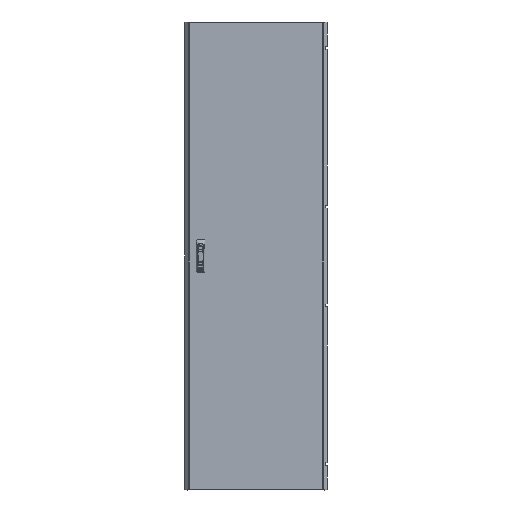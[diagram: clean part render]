
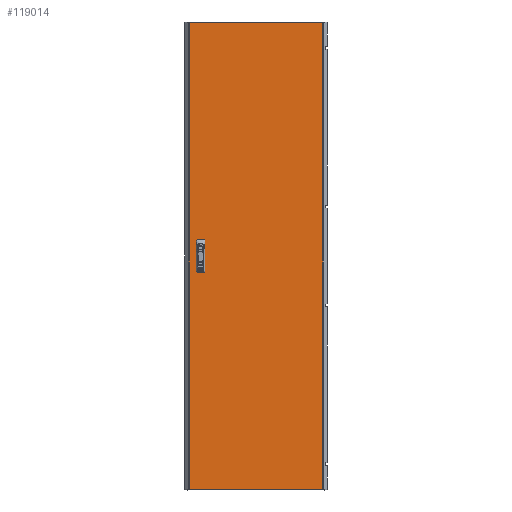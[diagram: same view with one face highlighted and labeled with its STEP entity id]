
A CAD part, top view. The second image highlights one B-rep face of the part: STEP entity #119014.
In plain terms, the highlighted planar face has unit normal (0, 0, 1).
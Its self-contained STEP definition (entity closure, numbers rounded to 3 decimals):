
#3309 = CARTESIAN_POINT ( 'NONE',  ( -217.5, 12.5, 0. ) ) ;
#4900 = DIRECTION ( 'NONE',  ( 0., -1., 0. ) ) ;
#5269 = VECTOR ( 'NONE', #67057, 1000. ) ;
#9928 = ORIENTED_EDGE ( 'NONE', *, *, #129033, .F. ) ;
#11241 = DIRECTION ( 'NONE',  ( 1., 0., 0. ) ) ;
#11551 = EDGE_CURVE ( 'NONE', #119676, #29200, #55425, .T. ) ;
#12056 = DIRECTION ( 'NONE',  ( 0., -1., 0. ) ) ;
#13585 = LINE ( 'NONE', #56794, #135735 ) ;
#15332 = LINE ( 'NONE', #67758, #5269 ) ;
#15963 = VECTOR ( 'NONE', #45034, 1000. ) ;
#16779 = VERTEX_POINT ( 'NONE', #116353 ) ;
#16940 = DIRECTION ( 'NONE',  ( 0., 0., -1. ) ) ;
#18397 = CARTESIAN_POINT ( 'NONE',  ( -217.5, -62.5, 0. ) ) ;
#20414 = LINE ( 'NONE', #21113, #54475 ) ;
#21113 = CARTESIAN_POINT ( 'NONE',  ( -217.5, -62.5, 0. ) ) ;
#23498 = VECTOR ( 'NONE', #42559, 1000. ) ;
#27272 = EDGE_LOOP ( 'NONE', ( #32809, #95005, #51477, #102237 ) ) ;
#27375 = VECTOR ( 'NONE', #70836, 1000. ) ;
#28265 = PLANE ( 'NONE',  #53009 ) ;
#29200 = VERTEX_POINT ( 'NONE', #120679 ) ;
#29286 = CARTESIAN_POINT ( 'NONE',  ( -217.5, 62.5, 0. ) ) ;
#31445 = VERTEX_POINT ( 'NONE', #122489 ) ;
#32307 = LINE ( 'NONE', #108750, #15963 ) ;
#32482 = LINE ( 'NONE', #106153, #74252 ) ;
#32809 = ORIENTED_EDGE ( 'NONE', *, *, #114030, .F. ) ;
#33956 = VECTOR ( 'NONE', #47211, 1000. ) ;
#34181 = CARTESIAN_POINT ( 'NONE',  ( -242.5, -12.5, 0. ) ) ;
#35798 = ORIENTED_EDGE ( 'NONE', *, *, #96958, .T. ) ;
#36832 = FACE_BOUND ( 'NONE', #27272, .T. ) ;
#39615 = VECTOR ( 'NONE', #97924, 1000. ) ;
#40486 = CARTESIAN_POINT ( 'NONE',  ( -277.875, -969.5, 0. ) ) ;
#41151 = ORIENTED_EDGE ( 'NONE', *, *, #11551, .F. ) ;
#42268 = EDGE_CURVE ( 'NONE', #124700, #109912, #79985, .T. ) ;
#42559 = DIRECTION ( 'NONE',  ( 1., 0., 0. ) ) ;
#44822 = EDGE_CURVE ( 'NONE', #121297, #31445, #15332, .T. ) ;
#45034 = DIRECTION ( 'NONE',  ( -1., 0., 0. ) ) ;
#45747 = ORIENTED_EDGE ( 'NONE', *, *, #85092, .F. ) ;
#47211 = DIRECTION ( 'NONE',  ( 0., 1., 0. ) ) ;
#50274 = FACE_OUTER_BOUND ( 'NONE', #138243, .T. ) ;
#51477 = ORIENTED_EDGE ( 'NONE', *, *, #134397, .F. ) ;
#51994 = EDGE_CURVE ( 'NONE', #16779, #113370, #72946, .T. ) ;
#53009 = AXIS2_PLACEMENT_3D ( 'NONE', #81413, #16940, #72171 ) ;
#54475 = VECTOR ( 'NONE', #116063, 1000. ) ;
#55425 = LINE ( 'NONE', #34181, #39615 ) ;
#56410 = ORIENTED_EDGE ( 'NONE', *, *, #62382, .F. ) ;
#56614 = CARTESIAN_POINT ( 'NONE',  ( -242.5, 12.5, 0. ) ) ;
#56794 = CARTESIAN_POINT ( 'NONE',  ( -277.875, 969.5, 0. ) ) ;
#61564 = VERTEX_POINT ( 'NONE', #29286 ) ;
#62382 = EDGE_CURVE ( 'NONE', #84790, #119676, #20414, .T. ) ;
#66456 = LINE ( 'NONE', #108244, #132341 ) ;
#67057 = DIRECTION ( 'NONE',  ( 0., -1., 0. ) ) ;
#67758 = CARTESIAN_POINT ( 'NONE',  ( -277.875, -969.5, 0. ) ) ;
#70777 = FACE_BOUND ( 'NONE', #77823, .T. ) ;
#70836 = DIRECTION ( 'NONE',  ( 0., 1., 0. ) ) ;
#71547 = CARTESIAN_POINT ( 'NONE',  ( -217.5, 12.5, 0. ) ) ;
#72171 = DIRECTION ( 'NONE',  ( -1., 0., 0. ) ) ;
#72223 = CARTESIAN_POINT ( 'NONE',  ( 277.875, -969.5, 0. ) ) ;
#72946 = LINE ( 'NONE', #72223, #27375 ) ;
#74252 = VECTOR ( 'NONE', #96254, 1000. ) ;
#74430 = LINE ( 'NONE', #40486, #23498 ) ;
#77591 = CARTESIAN_POINT ( 'NONE',  ( -217.5, -12.5, 0. ) ) ;
#77823 = EDGE_LOOP ( 'NONE', ( #41151, #56410, #45747, #9928 ) ) ;
#78025 = VECTOR ( 'NONE', #12056, 1000. ) ;
#79985 = LINE ( 'NONE', #56614, #133073 ) ;
#81413 = CARTESIAN_POINT ( 'NONE',  ( 0., 0., 0. ) ) ;
#83624 = ORIENTED_EDGE ( 'NONE', *, *, #44822, .T. ) ;
#84790 = VERTEX_POINT ( 'NONE', #18397 ) ;
#85092 = EDGE_CURVE ( 'NONE', #136848, #84790, #66456, .T. ) ;
#95005 = ORIENTED_EDGE ( 'NONE', *, *, #96438, .F. ) ;
#96254 = DIRECTION ( 'NONE',  ( 1., 0., 0. ) ) ;
#96438 = EDGE_CURVE ( 'NONE', #135921, #61564, #133561, .T. ) ;
#96958 = EDGE_CURVE ( 'NONE', #113370, #121297, #13585, .T. ) ;
#97053 = LINE ( 'NONE', #128897, #78025 ) ;
#97924 = DIRECTION ( 'NONE',  ( -1., 0., 0. ) ) ;
#99986 = DIRECTION ( 'NONE',  ( -1., 0., 0. ) ) ;
#102237 = ORIENTED_EDGE ( 'NONE', *, *, #42268, .F. ) ;
#104495 = CARTESIAN_POINT ( 'NONE',  ( -242.5, -62.5, 0. ) ) ;
#104984 = ORIENTED_EDGE ( 'NONE', *, *, #125937, .T. ) ;
#105175 = CARTESIAN_POINT ( 'NONE',  ( -242.5, 12.5, 0. ) ) ;
#106153 = CARTESIAN_POINT ( 'NONE',  ( -242.5, 12.5, 0. ) ) ;
#108244 = CARTESIAN_POINT ( 'NONE',  ( -242.5, -62.5, 0. ) ) ;
#108750 = CARTESIAN_POINT ( 'NONE',  ( -242.5, 62.5, 0. ) ) ;
#109912 = VERTEX_POINT ( 'NONE', #105175 ) ;
#110095 = ORIENTED_EDGE ( 'NONE', *, *, #51994, .T. ) ;
#113370 = VERTEX_POINT ( 'NONE', #127105 ) ;
#114030 = EDGE_CURVE ( 'NONE', #61564, #124700, #32307, .T. ) ;
#116063 = DIRECTION ( 'NONE',  ( 0., 1., 0. ) ) ;
#116353 = CARTESIAN_POINT ( 'NONE',  ( 277.875, -969.5, 0. ) ) ;
#119014 = ADVANCED_FACE ( 'NONE', ( #36832, #70777, #50274 ), #28265, .F. ) ;
#119676 = VERTEX_POINT ( 'NONE', #77591 ) ;
#120679 = CARTESIAN_POINT ( 'NONE',  ( -242.5, -12.5, 0. ) ) ;
#121297 = VERTEX_POINT ( 'NONE', #139773 ) ;
#122489 = CARTESIAN_POINT ( 'NONE',  ( -277.875, -969.5, 0. ) ) ;
#124700 = VERTEX_POINT ( 'NONE', #137252 ) ;
#125937 = EDGE_CURVE ( 'NONE', #31445, #16779, #74430, .T. ) ;
#127105 = CARTESIAN_POINT ( 'NONE',  ( 277.875, 969.5, 0. ) ) ;
#128897 = CARTESIAN_POINT ( 'NONE',  ( -242.5, -62.5, 0. ) ) ;
#129033 = EDGE_CURVE ( 'NONE', #29200, #136848, #97053, .T. ) ;
#132341 = VECTOR ( 'NONE', #11241, 1000. ) ;
#133073 = VECTOR ( 'NONE', #4900, 1000. ) ;
#133561 = LINE ( 'NONE', #3309, #33956 ) ;
#134397 = EDGE_CURVE ( 'NONE', #109912, #135921, #32482, .T. ) ;
#135735 = VECTOR ( 'NONE', #99986, 1000. ) ;
#135921 = VERTEX_POINT ( 'NONE', #71547 ) ;
#136848 = VERTEX_POINT ( 'NONE', #104495 ) ;
#137252 = CARTESIAN_POINT ( 'NONE',  ( -242.5, 62.5, 0. ) ) ;
#138243 = EDGE_LOOP ( 'NONE', ( #110095, #35798, #83624, #104984 ) ) ;
#139773 = CARTESIAN_POINT ( 'NONE',  ( -277.875, 969.5, 0. ) ) ;
